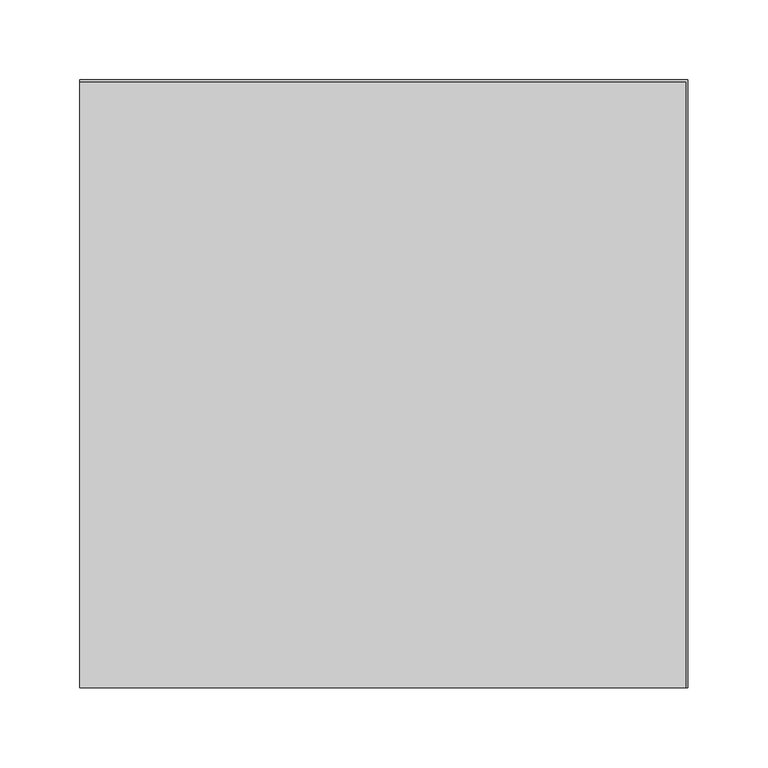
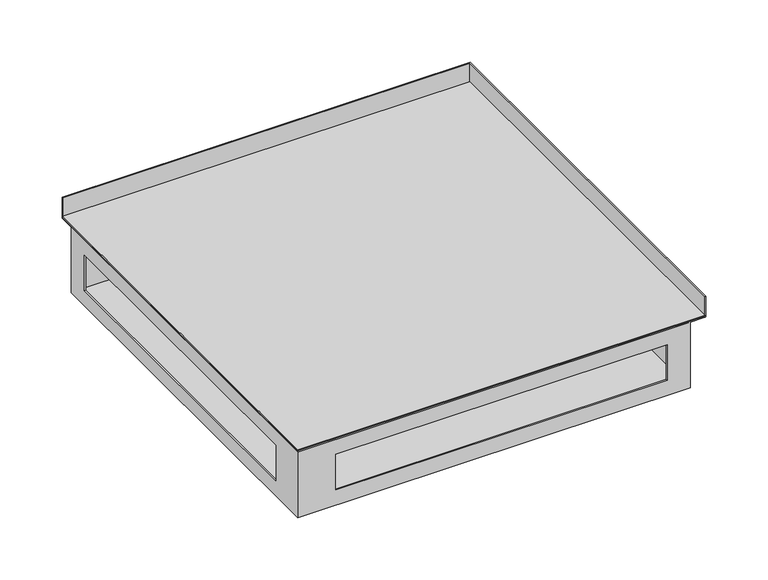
"""IFC4 building model written with IfcOpenShell, lengths in millimetres: proxy geometry, TECHNO_Угловой элемент_KVU : 380_085_90°."""

from ifc_helpers import new_model, si_unit, frame, origin, place, context, project, spatial, polyline, circle_curve, ellipse_curve, outline, extrude, source, transform, mapped, element, save
from ifc_brep_helpers import plane_surface, cylinder_surface, advanced_brep


def mechanical_equipment_19667f82(model_context):
    return source(origin(), model_context, "Body", "SolidModel", [
        extrude(outline(polyline([(0.0, 188.8), (378.8, 188.8), (378.8, -190.0), (0.0, -190.0), (0.0, 188.8)])), frame((0.0, 0.0, -19.3), z_axis=(0.0, 0.0, 1.0), x_axis=(1.0, 0.0, 0.0)), (0.0, 0.0, 1.0), 1.2),
        advanced_brep(
        [(1.2, 174.0, -83.8), (1.2, -188.8, -83.8), (364.0, -188.8, -83.8), (364.0, 174.0, -83.8), (0.0, 175.2, -85.0), (365.2, 175.2, -85.0), (365.2, -190.0, -85.0), (0.0, -190.0, -85.0), (0.0, 175.2, -20.5), (0.0, -190.0, -20.5), (0.0, 174.0, -20.5), (0.0, 175.2, -19.3), (0.0, 188.8, -19.3), (0.0, 188.8, 0.0), (0.0, 190.0, 0.0), (0.0, 190.0, -19.3), (0.0, 188.8, -20.5), (0.0, -154.5, -35.0), (0.0, -154.5, -70.0), (0.0, 153.9, -70.0), (0.0, 153.9, -35.0), (365.2, -190.0, -20.5), (378.8, -190.0, -20.5), (380.0, -190.0, -19.3), (380.0, -190.0, 0.0), (378.8, -190.0, 0.0), (378.8, -190.0, -19.3), (365.2, -190.0, -19.3), (364.0, -190.0, -20.5), (35.5, -190.0, -70.0), (35.5, -190.0, -35.0), (343.9, -190.0, -35.0), (343.9, -190.0, -70.0), (365.2, 175.2, -20.5), (1.2, 175.2, -19.3), (1.2, -188.8, -19.3), (365.2, -188.8, -19.3), (378.8, 188.8, -19.3), (365.2, -174.0, -19.3), (16.0, -174.0, -19.3), (16.0, 175.2, -19.3), (365.2, 175.2, -19.3), (16.0, -174.0, -20.5), (16.0, 174.0, -20.5), (364.0, -174.0, -20.5), (364.0, -188.8, -20.5), (1.2, -188.8, -20.5), (1.2, 174.0, -20.5), (1.2, -154.5, -70.0), (1.2, -154.5, -35.0), (1.2, 153.9, -35.0), (1.2, 153.9, -70.0), (35.5, -188.8, -35.0), (35.5, -188.8, -70.0), (343.9, -188.8, -70.0), (343.9, -188.8, -35.0), (380.0, 190.0, -19.3), (380.0, 190.0, 0.0), (378.8, 188.8, 0.0), (378.8, 188.8, -20.5), (364.0, 174.0, -20.5)],
        [
            (0, 1),
            (1, 2),
            (2, 3),
            (3, 0),
            (4, 5),
            (5, 6),
            (6, 7),
            (7, 4),
            (8, 4),
            (7, 9),
            (9, 10),
            (10, 11, circle_curve(frame((0.0, 175.2, -20.5), z_axis=(-1.0, 0.0, 0.0), x_axis=(0.0, -1.0, 0.0)), 1.2)),
            (11, 12),
            (12, 13),
            (13, 14),
            (14, 15),
            (15, 16, circle_curve(frame((0.0, 188.8, -19.3), z_axis=(-1.0, 0.0, 0.0), x_axis=(0.0, -1.0, 0.0)), 1.2)),
            (16, 8),
            (17, 18),
            (18, 19),
            (19, 20),
            (20, 17),
            (6, 21),
            (21, 22),
            (22, 23, circle_curve(frame((378.8, -190.0, -19.3), z_axis=(0.0, -1.0, 0.0), x_axis=(-1.0, 0.0, 0.0)), 1.2)),
            (23, 24),
            (24, 25),
            (25, 26),
            (26, 27),
            (27, 28, circle_curve(frame((365.2, -190.0, -20.5), z_axis=(0.0, -1.0, 0.0), x_axis=(-1.0, 0.0, 0.0)), 1.2)),
            (28, 9),
            (29, 30),
            (30, 31),
            (31, 32),
            (32, 29),
            (8, 33),
            (33, 5),
            (33, 21),
            (34, 35),
            (35, 36),
            (36, 27),
            (26, 37),
            (37, 12),
            (11, 34),
            (38, 39),
            (39, 40),
            (40, 41),
            (41, 38),
            (39, 42),
            (42, 43),
            (43, 40, circle_curve(frame((16.0, 175.2, -20.5), z_axis=(-1.0, 0.0, 0.0), x_axis=(0.0, -1.0, 0.0)), 1.2)),
            (38, 44, circle_curve(frame((365.2, -174.0, -20.5), z_axis=(0.0, -1.0, 0.0), x_axis=(-1.0, 0.0, 0.0)), 1.2)),
            (44, 42),
            (44, 45),
            (45, 46),
            (46, 47),
            (47, 43),
            (46, 1),
            (0, 47),
            (48, 49),
            (49, 50),
            (50, 51),
            (51, 48),
            (45, 2),
            (52, 53),
            (53, 54),
            (54, 55),
            (55, 52),
            (34, 10, ellipse_curve(frame((1.2, 175.2, -20.5), z_axis=(0.7071067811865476, -0.7071067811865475, 0.0), x_axis=(0.7071067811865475, 0.7071067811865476, 0.0)), 1.6970563, 1.2)),
            (9, 35, ellipse_curve(frame((1.2, -188.8, -20.5), z_axis=(-0.7071067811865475, 0.7071067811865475, 0.0), x_axis=(0.7071067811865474, 0.7071067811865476, 0.0)), 1.6970563, 1.2)),
            (28, 36, ellipse_curve(frame((365.2, -188.8, -20.5), z_axis=(-0.7071067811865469, 0.707106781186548, 0.0), x_axis=(-0.7071067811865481, -0.7071067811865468, 0.0)), 1.6970563, 1.2)),
            (23, 56),
            (56, 57),
            (57, 24),
            (57, 14),
            (13, 58),
            (58, 25),
            (58, 37),
            (16, 59),
            (59, 22),
            (59, 56, ellipse_curve(frame((378.8, 188.8, -19.3), z_axis=(0.707106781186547, -0.707106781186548, 0.0), x_axis=(-0.707106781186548, -0.707106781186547, 0.0)), 1.6970563, 1.2)),
            (56, 15),
            (41, 60, ellipse_curve(frame((365.2, 175.2, -20.5), z_axis=(0.707106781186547, -0.707106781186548, 0.0), x_axis=(-0.707106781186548, -0.707106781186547, 0.0)), 1.6970563, 1.2)),
            (60, 44),
            (60, 3),
            (43, 60),
            (48, 18),
            (17, 49),
            (51, 19),
            (50, 20),
            (52, 30),
            (29, 53),
            (55, 31),
            (54, 32),
        ],
        [
            plane_surface(frame((0.0, 174.0, -83.8), z_axis=(0.0, 0.0, 1.0), x_axis=(0.0, -1.0, 0.0))),
            plane_surface(frame((0.0, 174.0, -85.0), z_axis=(0.0, 0.0, -1.0), x_axis=(0.0, 1.0, 0.0))),
            plane_surface(frame((0.0, 174.0, -83.8), z_axis=(-1.0, 0.0, 0.0), x_axis=(0.0, 0.0, -1.0))),
            plane_surface(frame((0.0, -190.0, -83.8), z_axis=(0.0, -1.0, 0.0), x_axis=(0.0, 0.0, -1.0))),
            plane_surface(frame((0.0, 175.2, -85.0), z_axis=(0.0, 1.0, 0.0), x_axis=(0.0, 0.0, -1.0))),
            plane_surface(frame((365.2, -190.0, -85.0), z_axis=(1.0, 0.0, 0.0), x_axis=(0.0, 0.0, -1.0))),
            plane_surface(frame((1.2, 175.2, -19.3), z_axis=(0.0, 0.0, 1.0), x_axis=(0.0, -1.0, 0.0))),
            plane_surface(frame((16.0, 175.2, -19.3), z_axis=(1.0, 0.0, 0.0), x_axis=(0.0, -1.0, 0.0))),
            plane_surface(frame((16.0, -174.0, -19.3), z_axis=(0.0, 1.0, 0.0), x_axis=(1.0, 0.0, 0.0))),
            plane_surface(frame((16.0, 175.2, -20.5), z_axis=(0.0, 0.0, -1.0), x_axis=(0.0, -1.0, 0.0))),
            plane_surface(frame((1.2, 175.2, -20.5), z_axis=(1.0, 0.0, 0.0), x_axis=(0.0, -1.0, 0.0))),
            plane_surface(frame((1.2, -188.8, -20.5), z_axis=(0.0, 1.0, 0.0), x_axis=(1.0, 0.0, 0.0))),
            cylinder_surface(frame((1.2, 175.2, -20.5), z_axis=(0.0, 1.0, 0.0), x_axis=(-1.0, 0.0, 0.0)), 1.2),
            cylinder_surface(frame((0.0, -188.8, -20.5), z_axis=(-1.0, 0.0, 0.0), x_axis=(0.0, -1.0, 0.0)), 1.2),
            plane_surface(frame((380.0, -190.0, -19.3), z_axis=(1.0, 0.0, 0.0), x_axis=(0.0, 1.0, 0.0))),
            plane_surface(frame((380.0, -190.0, 0.0), z_axis=(0.0, 0.0, 1.0), x_axis=(0.0, 1.0, 0.0))),
            plane_surface(frame((378.8, -190.0, 0.0), z_axis=(-1.0, 0.0, 0.0), x_axis=(0.0, 1.0, 0.0))),
            plane_surface(frame((365.2, -190.0, -20.5), z_axis=(0.0, 0.0, -1.0), x_axis=(0.0, 1.0, 0.0))),
            cylinder_surface(frame((378.8, -190.0, -19.3), z_axis=(0.0, -1.0, 0.0), x_axis=(-1.0, 0.0, 0.0)), 1.2),
            plane_surface(frame((380.0, 190.0, -19.3), z_axis=(0.0, 1.0, 0.0), x_axis=(-1.0, 0.0, 0.0))),
            plane_surface(frame((378.8, 188.8, 0.0), z_axis=(0.0, -1.0, 0.0), x_axis=(-1.0, 0.0, 0.0))),
            cylinder_surface(frame((190.0, 188.8, -19.3), z_axis=(1.0, 0.0, 0.0), x_axis=(0.0, -1.0, 0.0)), 1.2),
            cylinder_surface(frame((365.2, -190.0, -20.5), z_axis=(0.0, -1.0, 0.0), x_axis=(-1.0, 0.0, 0.0)), 1.2),
            plane_surface(frame((364.0, -190.0, -20.5), z_axis=(-1.0, 0.0, 0.0), x_axis=(0.0, 1.0, 0.0))),
            cylinder_surface(frame((190.0, 175.2, -20.5), z_axis=(1.0, 0.0, 0.0), x_axis=(0.0, -1.0, 0.0)), 1.2),
            plane_surface(frame((364.0, 174.0, -20.5), z_axis=(0.0, -1.0, 0.0), x_axis=(-1.0, 0.0, 0.0))),
            plane_surface(frame((1.2, -154.5, -35.0), z_axis=(0.0, 1.0, 0.0), x_axis=(-1.0, 0.0, 0.0))),
            plane_surface(frame((1.2, -154.5, -70.0), z_axis=(0.0, 0.0, 1.0), x_axis=(-1.0, 0.0, 0.0))),
            plane_surface(frame((1.2, 153.9, -70.0), z_axis=(0.0, -1.0, 0.0), x_axis=(-1.0, 0.0, 0.0))),
            plane_surface(frame((1.2, 153.9, -35.0), z_axis=(0.0, 0.0, -1.0), x_axis=(-1.0, 0.0, 0.0))),
            plane_surface(frame((35.5, -188.8, -70.0), z_axis=(1.0, 0.0, 0.0), x_axis=(0.0, -1.0, 0.0))),
            plane_surface(frame((35.5, -188.8, -35.0), z_axis=(0.0, 0.0, -1.0), x_axis=(0.0, -1.0, 0.0))),
            plane_surface(frame((343.9, -188.8, -35.0), z_axis=(-1.0, 0.0, 0.0), x_axis=(0.0, -1.0, 0.0))),
            plane_surface(frame((343.9, -188.8, -70.0), z_axis=(0.0, 0.0, 1.0), x_axis=(0.0, -1.0, 0.0))),
        ],
        [
            (0, [[1, 2, 3, 4]]),
            (1, [[5, 6, 7, 8]]),
            (2, [[9, -8, 10, 11, 12, 13, 14, 15, 16, 17, 18], [19, 20, 21, 22]]),
            (3, [[23, 24, 25, 26, 27, 28, 29, 30, 31, -10, -7], [32, 33, 34, 35]]),
            (4, [[-9, 36, 37, -5]]),
            (5, [[-23, -6, -37, 38]]),
            (6, [[39, 40, 41, -29, 42, 43, -13, 44], [45, 46, 47, 48]]),
            (7, [[-46, 49, 50, 51]]),
            (8, [[-45, 52, 53, -49]]),
            (9, [[-50, -53, 54, 55, 56, 57]]),
            (10, [[58, -1, 59, -56], [60, 61, 62, 63]]),
            (11, [[-58, -55, 64, -2], [65, 66, 67, 68]]),
            (12, [[-39, 69, -11, 70]]),
            (13, [[-40, -70, -31, 71]]),
            (14, [[-26, 72, 73, 74]]),
            (15, [[-27, -74, 75, -15, 76, 77]]),
            (16, [[-28, -77, 78, -42]]),
            (17, [[-24, -38, -36, -18, 79, 80]]),
            (18, [[-25, -80, 81, -72]]),
            (19, [[-73, 82, -16, -75]]),
            (20, [[-76, -14, -43, -78]]),
            (21, [[-79, -17, -82, -81]]),
            (22, [[-30, -41, -71]]),
            (22, [[83, 84, -52, -48]]),
            (23, [[85, -3, -64, -54, -84]]),
            (24, [[-12, -69, -44]]),
            (24, [[-83, -47, -51, 86]]),
            (25, [[-85, -86, -57, -59, -4]]),
            (26, [[87, -19, 88, -60]]),
            (27, [[-87, -63, 89, -20]]),
            (28, [[-89, -62, 90, -21]]),
            (29, [[-88, -22, -90, -61]]),
            (30, [[91, -32, 92, -65]]),
            (31, [[-91, -68, 93, -33]]),
            (32, [[-93, -67, 94, -34]]),
            (33, [[-92, -35, -94, -66]]),
        ],
    ),
    ])


if __name__ == "__main__":
    model = new_model("IFC4")
    model_context = context("Model", 3, world=origin())
    ifc_project = project(units=[si_unit("LENGTHUNIT", "METRE", prefix="MILLI")], contexts=[model_context])
    site = spatial("IfcSite", under=ifc_project)
    building = spatial("IfcBuilding", under=site)
    placement = place(None, origin())
    mechanical_equipment_shape = mechanical_equipment_19667f82(model_context)
    element("IfcBuildingElementProxy", 1, Name="TECHNO_Угловой элемент_KVU : 380_085_90°", ObjectType="TECHNO_Угловой элемент_KVU : 380_085_90°", at=placement, inside=building, context=model_context, shape_type="MappedRepresentation", body=[
        mapped(mechanical_equipment_shape, transform((0.0, 0.0, 0.0), x_axis=(1.0, 0.0, 0.0), y_axis=(0.0, 1.0, 0.0), z_axis=(0.0, 0.0, 1.0))),
    ])
    save(model, "model.ifc")
